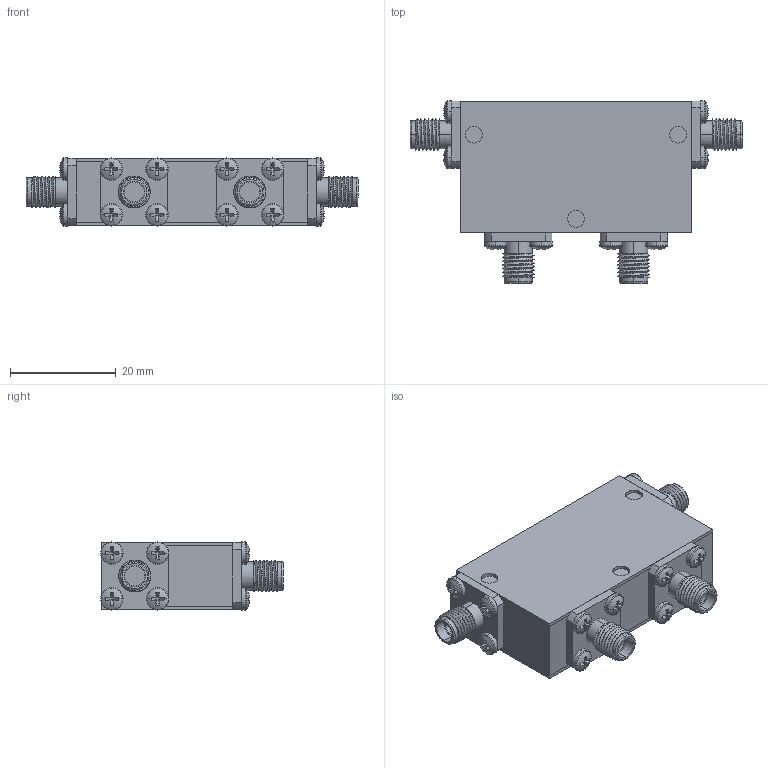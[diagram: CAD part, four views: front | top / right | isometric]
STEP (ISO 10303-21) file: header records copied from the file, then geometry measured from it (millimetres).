
FILE_DESCRIPTION (( 'STEP AP214' ), '1' );
FILE_NAME ('Package 19 Circ FFFF.step', '2021-12-01T20:59:07', ( '' ), ( '' ), 'SwSTEP 2.0', 'SolidWorks 2016', '' );
FILE_SCHEMA (( 'AUTOMOTIVE_DESIGN' ));
Length unit declared in the file: inch
Products named in the file (5): Delta SMA-Female 0.500 flange Threaded; Package 19 Circ FFFF; Package 19; Package Size 19; pan cross head_ai_CR-PHMS 0.086-56x0.125x0.125-N
Assembly tree (22 placements, depth 2):
  Package 19 Circ FFFF
    Package 19
    Delta SMA-Female 0.500 flange Threaded  x4
    pan cross head_ai_CR-PHMS 0.086-56x0.125x0.125-N  x16
    Package Size 19
Bounding box: 62.74 x 34.51 x 12.88 mm (x, y, z)
Volume: 15392.2 mm3; surface area: 12922 mm2
Topology: 22 solids, 22 shells, 552 faces, 1252 edges, 772 vertices
Faces by surface type: plane 304, cylinder 164, torus 40, sphere 32, bspline 12
Entity records: 3769 total; most frequent: CARTESIAN_POINT 1210, DIRECTION 537, ORIENTED_EDGE 434, EDGE_CURVE 217, AXIS2_PLACEMENT_3D 216, VERTEX_POINT 139, EDGE_LOOP 116, VECTOR 105
